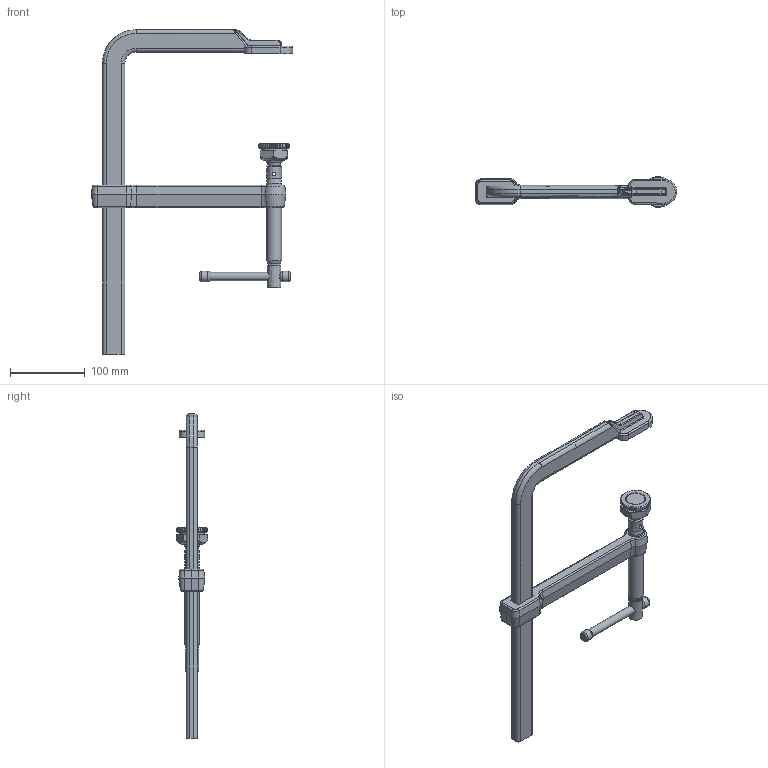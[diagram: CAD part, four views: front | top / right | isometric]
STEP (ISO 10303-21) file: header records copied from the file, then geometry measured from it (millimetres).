
FILE_DESCRIPTION( ('This file contains a STEP AP42 implementation' ,'as created by ZW3D STEP Interface translator.') ,'2;1' );
FILE_NAME( 'SG30T20M.stp' ,'18 122.101724', (''), ('ZWCAD Software Co.'), 'Version 1.0', 'ZW3D to STEP translator', '' );
FILE_SCHEMA( ('CONFIG_CONTROL_DESIGN') );
Length unit declared in the file: millimetre
Products named in the file (7): 0; SG30T20M; Spindel; Gleitbügel; Festbügel SG30T20M; Druckplatte; KNebel
Assembly tree (5 placements, depth 2):
  0
  SG30T20M
    Spindel
    Gleitbügel
    Festbügel SG30T20M
    Druckplatte
    KNebel
Bounding box: 269.99 x 41.98 x 435 mm (x, y, z)
Volume: 495089.2 mm3; surface area: 109028.5 mm2
Topology: 7 solids, 8 shells, 203 faces, 444 edges, 259 vertices
Faces by surface type: bspline 203
Entity records: 10303 total; most frequent: CARTESIAN_POINT 7332, ORIENTED_EDGE 880, EDGE_CURVE 440, B_SPLINE_CURVE_WITH_KNOTS 286, VERTEX_POINT 259, EDGE_LOOP 217, FACE_OUTER_BOUND 203, ADVANCED_FACE 203
